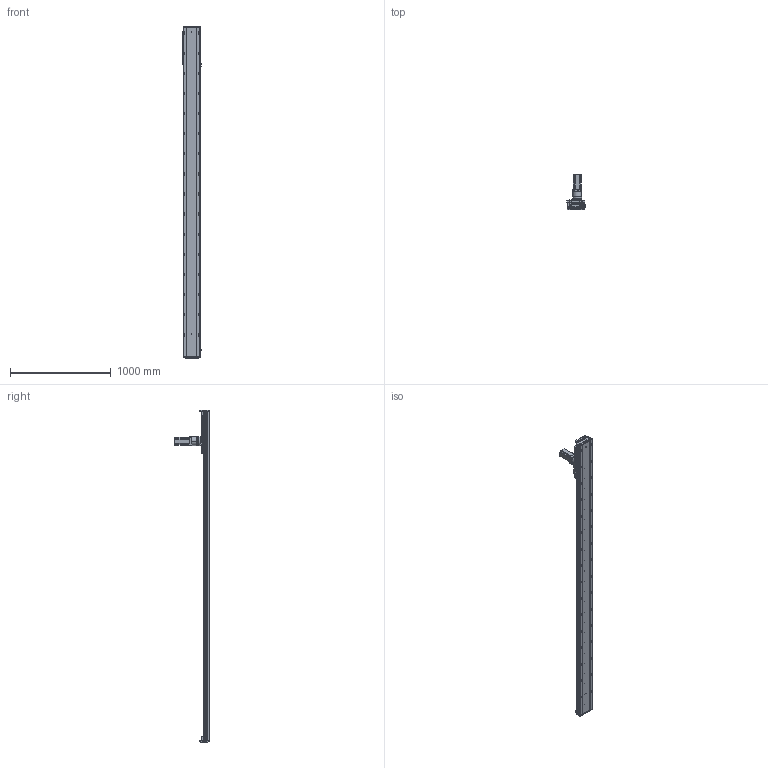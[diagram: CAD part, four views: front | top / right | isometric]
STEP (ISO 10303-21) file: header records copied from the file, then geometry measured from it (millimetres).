
FILE_DESCRIPTION (( 'STEP AP203' ), '1' );
FILE_NAME ('RY170-C-1000-UK.SLDASM_2800.step', '2021-03-03T00:48:02', ( '盈信电脑' ), ( '东莞市道滘镇水果街19号' ), 'SwSTEP 2.0', 'SolidWorks 2012', '' );
FILE_SCHEMA (( 'CONFIG_CONTROL_DESIGN' ));
Products named in the file (13): 怢湛750W萇儂ㄗ80遺ㄘ; RY170-喘謫萇儂覃誹啣; 覜茼ん672; RY170外置感应片(200共用）; 絳寢賑輸EGH20CA; RY170綴裔啣ㄗ蜊秶ㄘ; RY170-1000-喘沭耀郪絳寢EGH20CA_2800; RY170-1000齿条模组型材底座_2800; RY170-喘沭賑輸; RY170-C-1000-UK.SLDASM_2800; 左旋斜齿齿轮_M2_22齿_内孔20; RY170-喘沭滅袉蝶輸; TF080等撰
Assembly tree (22 placements, depth 2):
  RY170-C-1000-UK.SLDASM_2800
    RY170-1000齿条模组型材底座_2800
    絳寢賑輸EGH20CA  x6
    RY170-1000-喘沭耀郪絳寢EGH20CA_2800  x2
    RY170綴裔啣ㄗ蜊秶ㄘ  x2
    覜茼ん672  x3
    RY170外置感应片(200共用）
    RY170-喘謫萇儂覃誹啣
    怢湛750W萇儂ㄗ80遺ㄘ
    RY170-喘沭滅袉蝶輸  x2
    TF080等撰
    左旋斜齿齿轮_M2_22齿_内孔20
    RY170-喘沭賑輸
Bounding box: 188.7 x 343.5 x 3300 mm (x, y, z)
Volume: 16720290.3 mm3; surface area: 4292077.8 mm2
Topology: 24 solids, 24 shells, 4765 faces, 13472 edges, 8595 vertices
Faces by surface type: plane 2243, cylinder 2078, cone 390, bspline 50, torus 4
Entity records: 109446 total; most frequent: CARTESIAN_POINT 26399, ORIENTED_EDGE 17422, DIRECTION 16802, EDGE_CURVE 8711, AXIS2_PLACEMENT_3D 6251, VERTEX_POINT 5663, LINE 4300, VECTOR 4300
